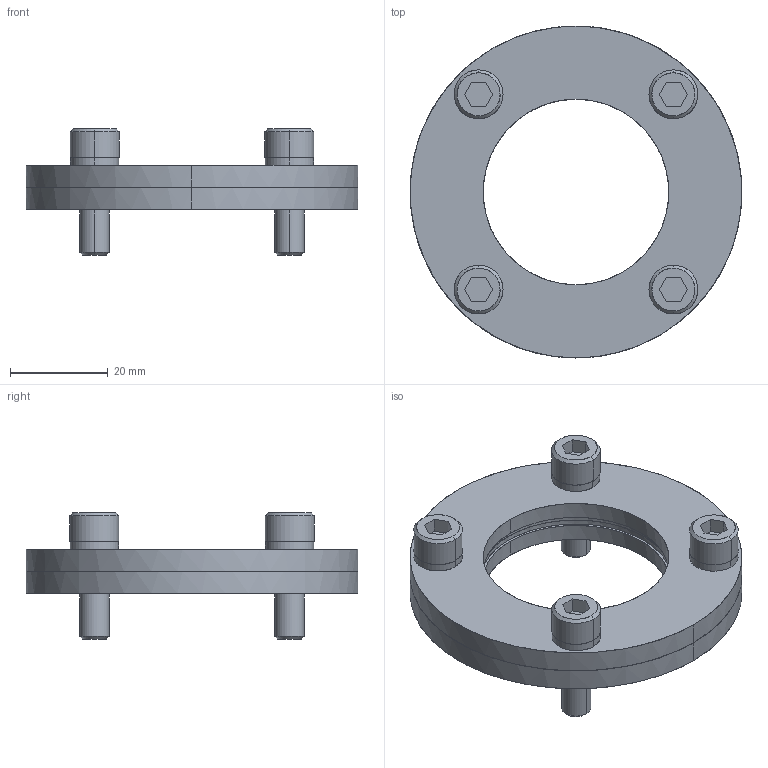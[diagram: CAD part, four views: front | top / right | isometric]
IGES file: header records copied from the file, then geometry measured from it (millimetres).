
Global section: file name: E:\UnigraphicsGraphicData\MISUMI_PRESS-PARTS\IGES\3d_kf38_04243_r00.igs; native system: NX V5.0; preprocessor: UGS NX IGES V5.0; author: MISUMI; date: 20110105.161126; units: millimetre
Bounding box: 68 x 68 x 25.9 mm (x, y, z)
Surface area: 16887.3 mm2 (no closed solid volume)
Topology: 0 solids, 0 shells, 130 faces, 1024 edges, 1024 vertices
Faces by surface type: bspline 130
